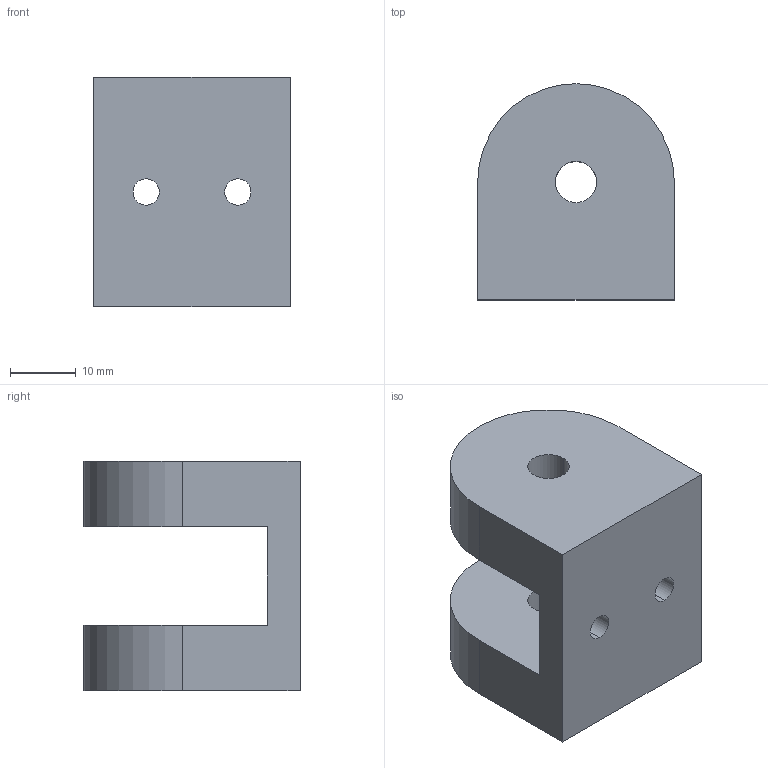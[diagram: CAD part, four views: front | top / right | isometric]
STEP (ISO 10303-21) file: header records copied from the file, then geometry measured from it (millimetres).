
FILE_DESCRIPTION (( 'STEP AP214' ), '1' );
FILE_NAME ('pully_holder.STEP', '2024-10-17T16:38:57', ( '' ), ( '' ), 'SwSTEP 2.0', 'SolidWorks 2020', '' );
FILE_SCHEMA (( 'AUTOMOTIVE_DESIGN' ));
Length unit declared in the file: millimetre
Products named in the file (1): pully_holder
Bounding box: 30 x 33 x 35 mm (x, y, z)
Volume: 19369.5 mm3; surface area: 6932.7 mm2
Topology: 1 solids, 1 shells, 18 faces, 48 edges, 32 vertices
Faces by surface type: cylinder 10, plane 8
Entity records: 622 total; most frequent: DIRECTION 106, CARTESIAN_POINT 99, ORIENTED_EDGE 96, EDGE_CURVE 48, AXIS2_PLACEMENT_3D 39, VERTEX_POINT 32, VECTOR 28, LINE 28
